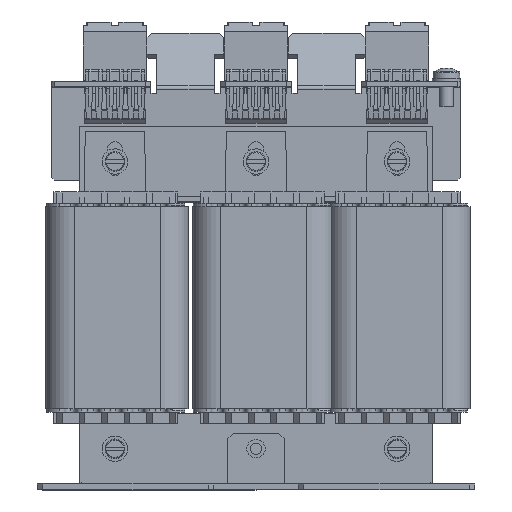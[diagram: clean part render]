
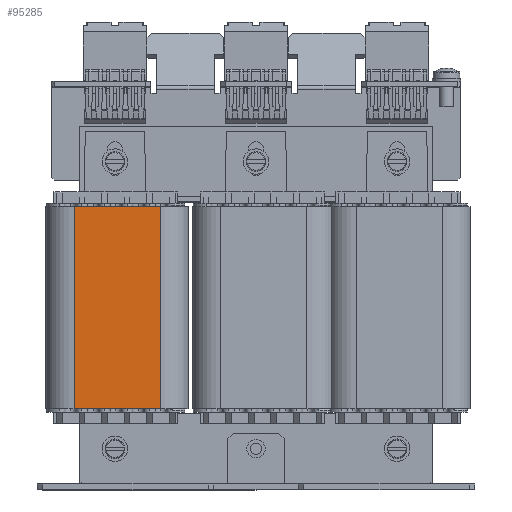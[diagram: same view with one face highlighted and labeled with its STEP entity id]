
A CAD part, top view. The second image highlights one B-rep face of the part: STEP entity #95285.
In plain terms, the highlighted planar face has unit normal (0, 0, 1).
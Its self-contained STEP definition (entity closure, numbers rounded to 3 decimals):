
#5270 = AXIS2_PLACEMENT_3D ( 'NONE', #92437, #50405, #109369 ) ;
#8008 = ORIENTED_EDGE ( 'NONE', *, *, #101913, .T. ) ;
#8038 = VECTOR ( 'NONE', #106745, 1000. ) ;
#8493 = VECTOR ( 'NONE', #14388, 1000. ) ;
#13486 = DIRECTION ( 'NONE',  ( 0., -1., 0. ) ) ;
#14388 = DIRECTION ( 'NONE',  ( 0., 1., 0. ) ) ;
#18230 = CARTESIAN_POINT ( 'NONE',  ( 15.25, 71.6, 24.8 ) ) ;
#18999 = CARTESIAN_POINT ( 'NONE',  ( -15.25, 71.6, 24.8 ) ) ;
#21854 = EDGE_LOOP ( 'NONE', ( #81564, #52549, #8008, #37305 ) ) ;
#25501 = LINE ( 'NONE', #29556, #87617 ) ;
#29556 = CARTESIAN_POINT ( 'NONE',  ( -25.25, 0., 24.8 ) ) ;
#31637 = VERTEX_POINT ( 'NONE', #78547 ) ;
#33392 = PLANE ( 'NONE',  #5270 ) ;
#37305 = ORIENTED_EDGE ( 'NONE', *, *, #104918, .T. ) ;
#38122 = DIRECTION ( 'NONE',  ( 1., 0., 0. ) ) ;
#40900 = EDGE_CURVE ( 'NONE', #83594, #92174, #78253, .T. ) ;
#43539 = VERTEX_POINT ( 'NONE', #61049 ) ;
#50405 = DIRECTION ( 'NONE',  ( 0., 0., -1. ) ) ;
#50981 = LINE ( 'NONE', #56960, #8493 ) ;
#52549 = ORIENTED_EDGE ( 'NONE', *, *, #94530, .T. ) ;
#53908 = VECTOR ( 'NONE', #13486, 1000. ) ;
#55720 = CARTESIAN_POINT ( 'NONE',  ( -15.25, 71.6, 24.8 ) ) ;
#56960 = CARTESIAN_POINT ( 'NONE',  ( 15.25, 71.6, 24.8 ) ) ;
#61049 = CARTESIAN_POINT ( 'NONE',  ( 15.25, 0., 24.8 ) ) ;
#64357 = CARTESIAN_POINT ( 'NONE',  ( -25.25, 71.6, 24.8 ) ) ;
#78253 = LINE ( 'NONE', #64357, #8038 ) ;
#78547 = CARTESIAN_POINT ( 'NONE',  ( -15.25, 0., 24.8 ) ) ;
#78979 = LINE ( 'NONE', #55720, #53908 ) ;
#81564 = ORIENTED_EDGE ( 'NONE', *, *, #40900, .F. ) ;
#83594 = VERTEX_POINT ( 'NONE', #18999 ) ;
#87617 = VECTOR ( 'NONE', #38122, 1000. ) ;
#92174 = VERTEX_POINT ( 'NONE', #18230 ) ;
#92437 = CARTESIAN_POINT ( 'NONE',  ( -25.25, 71.6, 24.8 ) ) ;
#94530 = EDGE_CURVE ( 'NONE', #83594, #31637, #78979, .T. ) ;
#95285 = ADVANCED_FACE ( 'NONE', ( #98550 ), #33392, .F. ) ;
#98550 = FACE_OUTER_BOUND ( 'NONE', #21854, .T. ) ;
#101913 = EDGE_CURVE ( 'NONE', #31637, #43539, #25501, .T. ) ;
#104918 = EDGE_CURVE ( 'NONE', #43539, #92174, #50981, .T. ) ;
#106745 = DIRECTION ( 'NONE',  ( 1., 0., 0. ) ) ;
#109369 = DIRECTION ( 'NONE',  ( -1., 0., 0. ) ) ;
